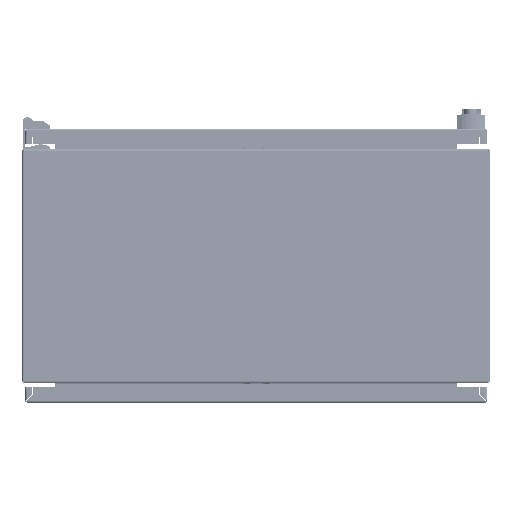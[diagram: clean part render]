
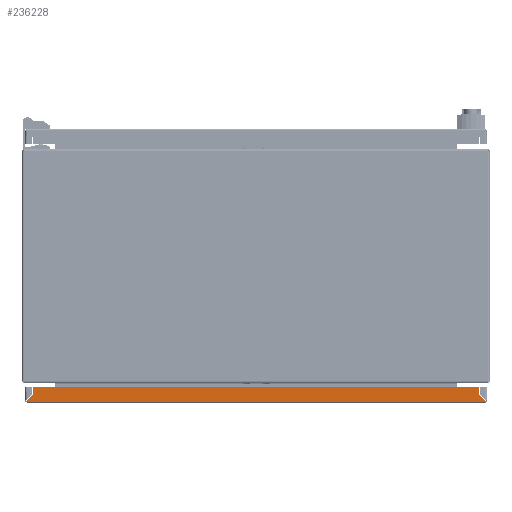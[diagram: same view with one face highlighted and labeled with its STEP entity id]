
A CAD part, front view. The second image highlights one B-rep face of the part: STEP entity #236228.
In plain terms, the highlighted planar face has unit normal (0, -1, 0).
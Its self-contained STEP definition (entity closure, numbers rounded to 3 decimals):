
#20926 = DIRECTION ( 'NONE',  ( -1., 0., 0. ) ) ;
#20927 = VECTOR ( 'NONE', #20926, 1000. ) ;
#20928 = CARTESIAN_POINT ( 'NONE',  ( 10181.15, 21.5, -155. ) ) ;
#20930 = LINE ( 'NONE', #20928, #20927 ) ;
#31912 = CARTESIAN_POINT ( 'NONE',  ( 286.383, 21.5, -164.81 ) ) ;
#31914 = LINE ( 'NONE', #31912, #32935 ) ;
#32935 = VECTOR ( 'NONE', #33174, 1000. ) ;
#33174 = DIRECTION ( 'NONE',  ( 0.707, 0., -0.707 ) ) ;
#36258 = FACE_OUTER_BOUND ( 'NONE', #236233, .T. ) ;
#37020 = DIRECTION ( 'NONE',  ( 0., 1., 0. ) ) ;
#37021 = CARTESIAN_POINT ( 'NONE',  ( 10181.15, 21.5, -155. ) ) ;
#37023 = AXIS2_PLACEMENT_3D ( 'NONE', #37021, #37020, #37053 ) ;
#37024 = PLANE ( 'NONE',  #37023 ) ;
#37053 = DIRECTION ( 'NONE',  ( 0., 0., -1. ) ) ;
#37216 = DIRECTION ( 'NONE',  ( 0., 0., -1. ) ) ;
#37217 = VECTOR ( 'NONE', #37216, 1000. ) ;
#37218 = CARTESIAN_POINT ( 'NONE',  ( 286.383, 21.5, -155. ) ) ;
#37219 = LINE ( 'NONE', #37218, #37217 ) ;
#235830 = VERTEX_POINT ( 'NONE', #295897 ) ;
#235839 = ORIENTED_EDGE ( 'NONE', *, *, #236737, .T. ) ;
#235851 = ORIENTED_EDGE ( 'NONE', *, *, #235857, .T. ) ;
#235857 = EDGE_CURVE ( 'NONE', #235964, #235861, #296525, .T. ) ;
#235861 = VERTEX_POINT ( 'NONE', #296561 ) ;
#235868 = ORIENTED_EDGE ( 'NONE', *, *, #235874, .T. ) ;
#235874 = EDGE_CURVE ( 'NONE', #235861, #235883, #296940, .T. ) ;
#235883 = VERTEX_POINT ( 'NONE', #296755 ) ;
#235886 = ORIENTED_EDGE ( 'NONE', *, *, #235894, .F. ) ;
#235894 = EDGE_CURVE ( 'NONE', #235899, #235883, #297285, .T. ) ;
#235899 = VERTEX_POINT ( 'NONE', #297271 ) ;
#235908 = ORIENTED_EDGE ( 'NONE', *, *, #236156, .F. ) ;
#235959 = VERTEX_POINT ( 'NONE', #300615 ) ;
#235964 = VERTEX_POINT ( 'NONE', #300681 ) ;
#236156 = EDGE_CURVE ( 'NONE', #235830, #235899, #31914, .T. ) ;
#236228 = ADVANCED_FACE ( 'NONE', ( #36258 ), #37024, .F. ) ;
#236233 = EDGE_LOOP ( 'NONE', ( #236237, #235839, #235851, #235868, #235886, #235908 ) ) ;
#236237 = ORIENTED_EDGE ( 'NONE', *, *, #236245, .F. ) ;
#236245 = EDGE_CURVE ( 'NONE', #235959, #235830, #37219, .T. ) ;
#236737 = EDGE_CURVE ( 'NONE', #235959, #235964, #20930, .T. ) ;
#295897 = CARTESIAN_POINT ( 'NONE',  ( 286.383, 21.5, -164.81 ) ) ;
#296525 = LINE ( 'NONE', #296569, #296566 ) ;
#296561 = CARTESIAN_POINT ( 'NONE',  ( -286.083, 21.5, -164.81 ) ) ;
#296563 = DIRECTION ( 'NONE',  ( 0., 0., -1. ) ) ;
#296566 = VECTOR ( 'NONE', #296563, 1000. ) ;
#296569 = CARTESIAN_POINT ( 'NONE',  ( -286.083, 21.5, -155. ) ) ;
#296755 = CARTESIAN_POINT ( 'NONE',  ( -294.173, 21.5, -172.9 ) ) ;
#296934 = DIRECTION ( 'NONE',  ( -0.707, 0., -0.707 ) ) ;
#296936 = VECTOR ( 'NONE', #296934, 1000. ) ;
#296938 = CARTESIAN_POINT ( 'NONE',  ( -286.083, 21.5, -164.81 ) ) ;
#296940 = LINE ( 'NONE', #296938, #296936 ) ;
#297271 = CARTESIAN_POINT ( 'NONE',  ( 294.473, 21.5, -172.9 ) ) ;
#297285 = LINE ( 'NONE', #297383, #297382 ) ;
#297306 = DIRECTION ( 'NONE',  ( -1., 0., 0. ) ) ;
#297382 = VECTOR ( 'NONE', #297306, 1000. ) ;
#297383 = CARTESIAN_POINT ( 'NONE',  ( 10181.15, 21.5, -172.9 ) ) ;
#300615 = CARTESIAN_POINT ( 'NONE',  ( 286.383, 21.5, -155. ) ) ;
#300681 = CARTESIAN_POINT ( 'NONE',  ( -286.083, 21.5, -155. ) ) ;
